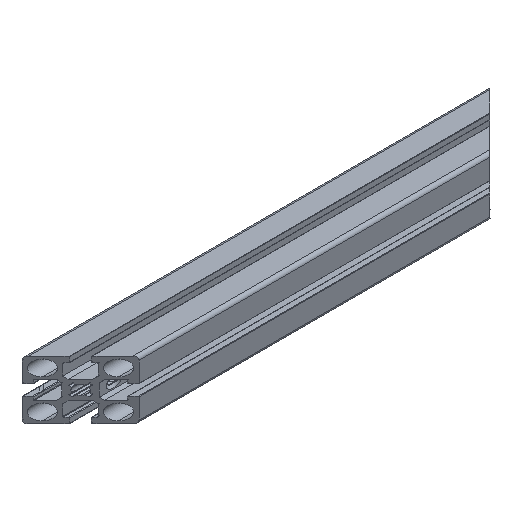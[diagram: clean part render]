
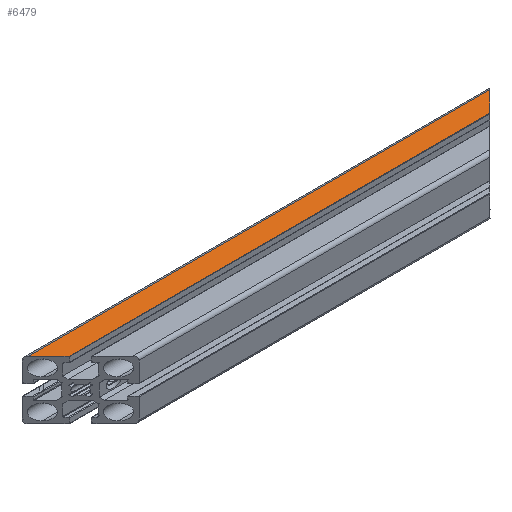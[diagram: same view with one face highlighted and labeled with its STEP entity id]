
A CAD part, isometric view. The second image highlights one B-rep face of the part: STEP entity #6479.
In plain terms, the highlighted planar face has unit normal (0, 0, 1).
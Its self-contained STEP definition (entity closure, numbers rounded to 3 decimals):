
#459 = DIRECTION ( 'NONE',  ( 0., 0., -1. ) ) ;
#901 = CARTESIAN_POINT ( 'NONE',  ( -2.5, 20., 22.5 ) ) ;
#1177 = PLANE ( 'NONE',  #2364 ) ;
#1225 = ORIENTED_EDGE ( 'NONE', *, *, #2768, .F. ) ;
#1452 = CARTESIAN_POINT ( 'NONE',  ( -360., 20., 22.5 ) ) ;
#1984 = CARTESIAN_POINT ( 'NONE',  ( -360., 4.4, 22.5 ) ) ;
#2001 = EDGE_LOOP ( 'NONE', ( #1225, #3440, #8539, #8555 ) ) ;
#2028 = LINE ( 'NONE', #1984, #2631 ) ;
#2101 = LINE ( 'NONE', #1452, #7737 ) ;
#2364 = AXIS2_PLACEMENT_3D ( 'NONE', #6547, #459, #4607 ) ;
#2631 = VECTOR ( 'NONE', #8171, 1000. ) ;
#2718 = VERTEX_POINT ( 'NONE', #6766 ) ;
#2768 = EDGE_CURVE ( 'NONE', #3367, #3241, #2101, .T. ) ;
#2805 = DIRECTION ( 'NONE',  ( -0.707, 0.707, 0. ) ) ;
#2900 = CARTESIAN_POINT ( 'NONE',  ( -360., 22.5, 22.5 ) ) ;
#3072 = VECTOR ( 'NONE', #7908, 1000. ) ;
#3241 = VERTEX_POINT ( 'NONE', #901 ) ;
#3367 = VERTEX_POINT ( 'NONE', #5979 ) ;
#3440 = ORIENTED_EDGE ( 'NONE', *, *, #8485, .F. ) ;
#3538 = DIRECTION ( 'NONE',  ( 1., 0., 0. ) ) ;
#4607 = DIRECTION ( 'NONE',  ( -1., 0., 0. ) ) ;
#5171 = LINE ( 'NONE', #5940, #3072 ) ;
#5940 = CARTESIAN_POINT ( 'NONE',  ( 0., 22.5, 22.5 ) ) ;
#5979 = CARTESIAN_POINT ( 'NONE',  ( -357.5, 20., 22.5 ) ) ;
#6200 = CARTESIAN_POINT ( 'NONE',  ( -18.1, 4.4, 22.5 ) ) ;
#6479 = ADVANCED_FACE ( 'NONE', ( #8551 ), #1177, .F. ) ;
#6512 = VECTOR ( 'NONE', #2805, 1000. ) ;
#6547 = CARTESIAN_POINT ( 'NONE',  ( -360., 4.4, 22.5 ) ) ;
#6766 = CARTESIAN_POINT ( 'NONE',  ( -341.9, 4.4, 22.5 ) ) ;
#7737 = VECTOR ( 'NONE', #3538, 1000. ) ;
#7790 = LINE ( 'NONE', #2900, #6512 ) ;
#7908 = DIRECTION ( 'NONE',  ( -0.707, -0.707, 0. ) ) ;
#8128 = EDGE_CURVE ( 'NONE', #2718, #8197, #2028, .T. ) ;
#8171 = DIRECTION ( 'NONE',  ( 1., 0., 0. ) ) ;
#8197 = VERTEX_POINT ( 'NONE', #6200 ) ;
#8485 = EDGE_CURVE ( 'NONE', #2718, #3367, #7790, .T. ) ;
#8539 = ORIENTED_EDGE ( 'NONE', *, *, #8128, .T. ) ;
#8551 = FACE_OUTER_BOUND ( 'NONE', #2001, .T. ) ;
#8555 = ORIENTED_EDGE ( 'NONE', *, *, #8661, .F. ) ;
#8661 = EDGE_CURVE ( 'NONE', #3241, #8197, #5171, .T. ) ;
